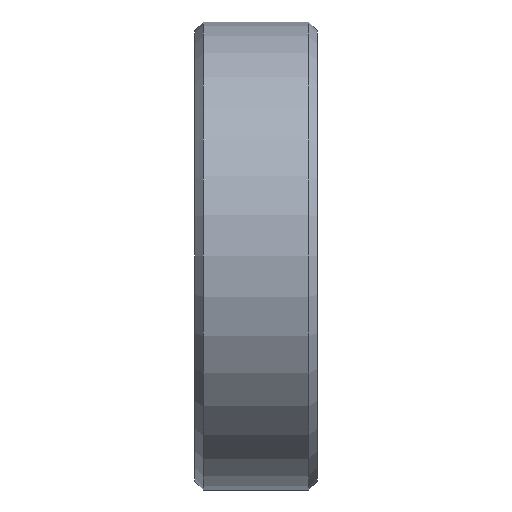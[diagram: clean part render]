
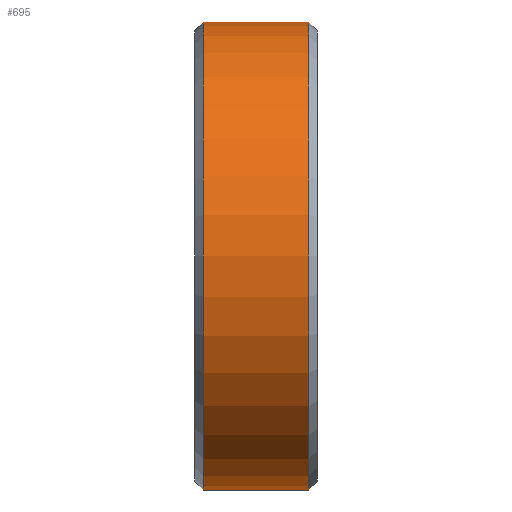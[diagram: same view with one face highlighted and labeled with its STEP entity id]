
A CAD part, front view. The second image highlights one B-rep face of the part: STEP entity #695.
In plain terms, the highlighted cylindrical face has radius 40 mm (diameter 80 mm), a full revolution.
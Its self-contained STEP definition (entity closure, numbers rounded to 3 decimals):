
#131=LINE('',#1782,#151);
#151=VECTOR('',#1002,40.);
#167=CYLINDRICAL_SURFACE('',#842,40.);
#210=FACE_OUTER_BOUND('',#255,.T.);
#255=EDGE_LOOP('',(#627,#628,#629,#630,#631,#632));
#287=CIRCLE('',#838,40.);
#288=CIRCLE('',#839,40.);
#291=CIRCLE('',#843,40.);
#292=CIRCLE('',#844,40.);
#363=VERTEX_POINT('',#1768);
#364=VERTEX_POINT('',#1769);
#367=VERTEX_POINT('',#1778);
#368=VERTEX_POINT('',#1779);
#453=EDGE_CURVE('',#363,#364,#287,.T.);
#454=EDGE_CURVE('',#364,#363,#288,.T.);
#458=EDGE_CURVE('',#367,#368,#291,.T.);
#459=EDGE_CURVE('',#368,#367,#292,.T.);
#460=EDGE_CURVE('',#368,#364,#131,.T.);
#627=ORIENTED_EDGE('',*,*,#458,.F.);
#628=ORIENTED_EDGE('',*,*,#459,.F.);
#629=ORIENTED_EDGE('',*,*,#460,.T.);
#630=ORIENTED_EDGE('',*,*,#454,.T.);
#631=ORIENTED_EDGE('',*,*,#453,.T.);
#632=ORIENTED_EDGE('',*,*,#460,.F.);
#695=ADVANCED_FACE('',(#210),#167,.T.);
#838=AXIS2_PLACEMENT_3D('',#1770,#987,#988);
#839=AXIS2_PLACEMENT_3D('',#1771,#989,#990);
#842=AXIS2_PLACEMENT_3D('',#1777,#996,#997);
#843=AXIS2_PLACEMENT_3D('',#1780,#998,#999);
#844=AXIS2_PLACEMENT_3D('',#1781,#1000,#1001);
#987=DIRECTION('center_axis',(1.,0.,0.));
#988=DIRECTION('ref_axis',(0.,0.,-1.));
#989=DIRECTION('center_axis',(1.,0.,0.));
#990=DIRECTION('ref_axis',(0.,0.,-1.));
#996=DIRECTION('center_axis',(1.,0.,0.));
#997=DIRECTION('ref_axis',(0.,1.,0.));
#998=DIRECTION('center_axis',(1.,0.,0.));
#999=DIRECTION('ref_axis',(0.,0.,-1.));
#1000=DIRECTION('center_axis',(1.,0.,0.));
#1001=DIRECTION('ref_axis',(0.,0.,-1.));
#1002=DIRECTION('',(-1.,0.,0.));
#1768=CARTESIAN_POINT('',(-9.,40.,0.));
#1769=CARTESIAN_POINT('',(-9.,-40.,0.));
#1770=CARTESIAN_POINT('Origin',(-9.,0.,0.));
#1771=CARTESIAN_POINT('Origin',(-9.,0.,0.));
#1777=CARTESIAN_POINT('Origin',(4.5,0.,0.));
#1778=CARTESIAN_POINT('',(9.,40.,0.));
#1779=CARTESIAN_POINT('',(9.,-40.,0.));
#1780=CARTESIAN_POINT('Origin',(9.,0.,0.));
#1781=CARTESIAN_POINT('Origin',(9.,0.,0.));
#1782=CARTESIAN_POINT('',(4.5,-40.,0.));
